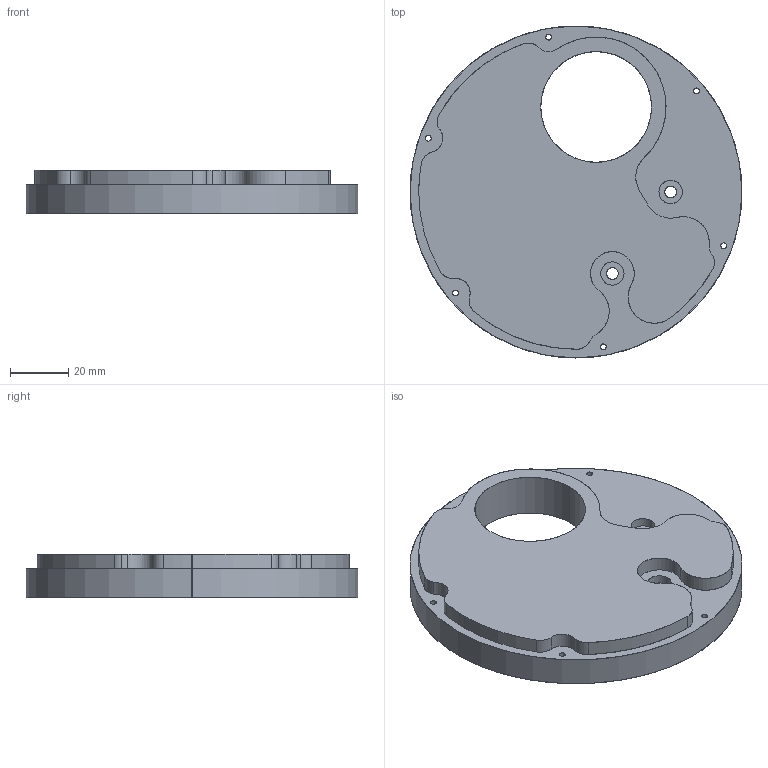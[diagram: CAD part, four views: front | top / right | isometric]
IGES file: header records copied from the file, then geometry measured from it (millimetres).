
Start section: SolidWorks IGES file using analytic representation for surfaces
Global section: file name: E:\Nouveau dossier\tarek\mécaniquee\L3GMCFM\TP0\EX13.IGS; native system: SolidWorks 2013; preprocessor: SolidWorks 2013; author: LENOVO; date: 180923.000324; units: millimetre
Bounding box: 114 x 114 x 15 mm (x, y, z)
Surface area: 26155.6 mm2 (no closed solid volume)
Topology: 0 solids, 0 shells, 61 faces, 1252 edges, 1252 vertices
Faces by surface type: revolution 55, bspline 6
